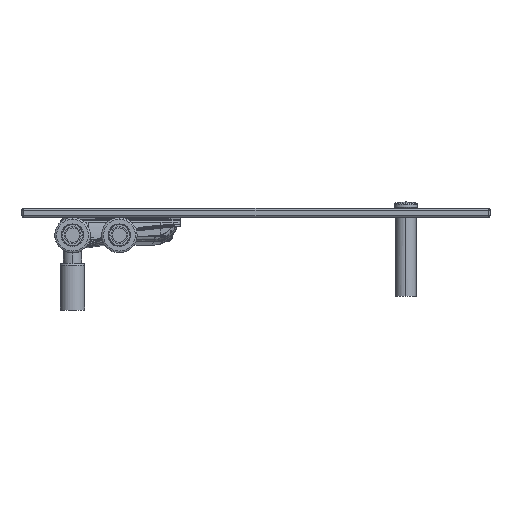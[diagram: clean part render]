
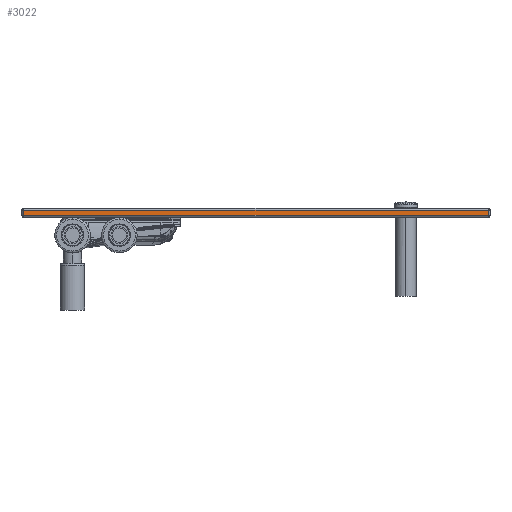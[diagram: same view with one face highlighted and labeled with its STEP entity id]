
A CAD part, front view. The second image highlights one B-rep face of the part: STEP entity #3022.
In plain terms, the highlighted planar face has unit normal (0, -1, 0).
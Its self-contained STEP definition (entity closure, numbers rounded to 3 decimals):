
#2493=DIRECTION('',(1.,0.,0.));
#2494=VECTOR('',#2493,496.);
#2495=CARTESIAN_POINT('',(-52.,15.,21.25));
#2496=LINE('',#2495,#2494);
#2508=DIRECTION('',(0.,0.,1.));
#2509=VECTOR('',#2508,5.5);
#2510=CARTESIAN_POINT('',(-52.,15.,21.25));
#2511=LINE('',#2510,#2509);
#2515=DIRECTION('',(1.,0.,0.));
#2516=VECTOR('',#2515,496.);
#2517=CARTESIAN_POINT('',(-52.,15.,26.75));
#2518=LINE('',#2517,#2516);
#2522=DIRECTION('',(0.,0.,-1.));
#2523=VECTOR('',#2522,5.5);
#2524=CARTESIAN_POINT('',(444.,15.,26.75));
#2525=LINE('',#2524,#2523);
#2686=CARTESIAN_POINT('',(-52.,15.,21.25));
#2687=VERTEX_POINT('',#2686);
#2690=CARTESIAN_POINT('',(-52.,15.,26.75));
#2691=VERTEX_POINT('',#2690);
#2726=CARTESIAN_POINT('',(444.,15.,26.75));
#2727=VERTEX_POINT('',#2726);
#2730=CARTESIAN_POINT('',(444.,15.,21.25));
#2731=VERTEX_POINT('',#2730);
#3009=CARTESIAN_POINT('',(-54.,15.,26.75));
#3010=DIRECTION('',(0.,-1.,0.));
#3011=DIRECTION('',(0.,0.,-1.));
#3012=AXIS2_PLACEMENT_3D('',#3009,#3010,#3011);
#3013=PLANE('',#3012);
#3014=ORIENTED_EDGE('',*,*,#2840,.T.);
#3016=ORIENTED_EDGE('',*,*,#3015,.T.);
#3018=ORIENTED_EDGE('',*,*,#3017,.T.);
#3019=ORIENTED_EDGE('',*,*,#3001,.F.);
#3020=EDGE_LOOP('',(#3014,#3016,#3018,#3019));
#3021=FACE_OUTER_BOUND('',#3020,.F.);
#2840=EDGE_CURVE('',#2687,#2691,#2511,.T.);
#3001=EDGE_CURVE('',#2687,#2731,#2496,.T.);
#3015=EDGE_CURVE('',#2691,#2727,#2518,.T.);
#3017=EDGE_CURVE('',#2727,#2731,#2525,.T.);
#3022=ADVANCED_FACE('',(#3021),#3013,.T.);
